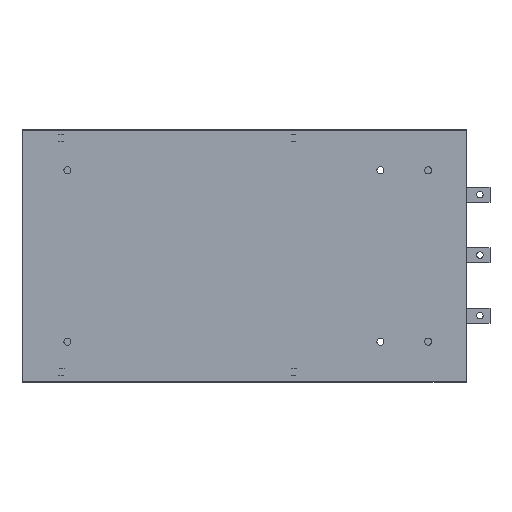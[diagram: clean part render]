
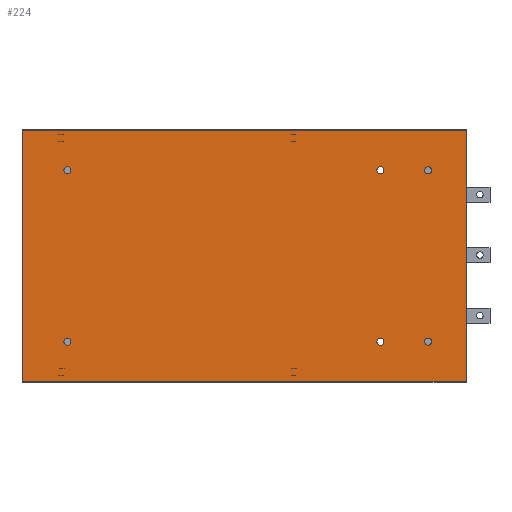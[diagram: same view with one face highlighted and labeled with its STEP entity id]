
A CAD part, front view. The second image highlights one B-rep face of the part: STEP entity #224.
In plain terms, the highlighted planar face has unit normal (0, -1, 0).
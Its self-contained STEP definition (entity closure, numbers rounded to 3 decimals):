
#224=ADVANCED_FACE('',(#3628,#3630,#3632,#3634,#3636,#3638,#3640),#3642,.T.);
#3628=FACE_BOUND('',#3629,.T.);
#3629=EDGE_LOOP('',(#8478,#8479,#8480,#8481));
#3630=FACE_BOUND('',#3631,.T.);
#3631=EDGE_LOOP('',(#8482));
#3632=FACE_BOUND('',#3633,.T.);
#3633=EDGE_LOOP('',(#8483));
#3634=FACE_BOUND('',#3635,.T.);
#3635=EDGE_LOOP('',(#8484));
#3636=FACE_BOUND('',#3637,.T.);
#3637=EDGE_LOOP('',(#8485));
#3638=FACE_BOUND('',#3639,.T.);
#3639=EDGE_LOOP('',(#8486));
#3640=FACE_BOUND('',#3641,.T.);
#3641=EDGE_LOOP('',(#8487));
#3642=PLANE('',#3643);
#3643=AXIS2_PLACEMENT_3D('',#3644,#3645,#3646);
#3644=CARTESIAN_POINT('',(764.726,-71.,-19.955));
#3645=DIRECTION('',(0.,-1.,0.));
#3646=DIRECTION('',(0.,0.,1.));
#8478=ORIENTED_EDGE('',*,*,#10662,.F.);
#8479=ORIENTED_EDGE('',*,*,#10667,.T.);
#8480=ORIENTED_EDGE('',*,*,#10664,.T.);
#8481=ORIENTED_EDGE('',*,*,#10668,.F.);
#8482=ORIENTED_EDGE('',*,*,#10669,.T.);
#8483=ORIENTED_EDGE('',*,*,#10670,.T.);
#8484=ORIENTED_EDGE('',*,*,#10671,.T.);
#8485=ORIENTED_EDGE('',*,*,#10672,.T.);
#8486=ORIENTED_EDGE('',*,*,#10673,.T.);
#8487=ORIENTED_EDGE('',*,*,#10674,.T.);
#10662=EDGE_CURVE('',#11777,#11779,#11780,.T.);
#10664=EDGE_CURVE('',#11782,#11783,#11784,.T.);
#10667=EDGE_CURVE('',#11777,#11782,#11787,.T.);
#10668=EDGE_CURVE('',#11779,#11783,#11788,.T.);
#10669=EDGE_CURVE('',#11789,#11789,#11790,.F.);
#10670=EDGE_CURVE('',#11791,#11791,#11792,.F.);
#10671=EDGE_CURVE('',#11793,#11793,#11794,.F.);
#10672=EDGE_CURVE('',#11795,#11795,#11796,.F.);
#10673=EDGE_CURVE('',#11797,#11797,#11798,.F.);
#10674=EDGE_CURVE('',#11799,#11799,#11800,.F.);
#11777=VERTEX_POINT('',#13706);
#11779=VERTEX_POINT('',#13711);
#11780=LINE('',#13712,#13713);
#11782=VERTEX_POINT('',#13719);
#11783=VERTEX_POINT('',#13720);
#11784=LINE('',#13721,#13722);
#11787=LINE('',#13732,#13733);
#11788=LINE('',#13735,#13736);
#11789=VERTEX_POINT('',#13738);
#11790=CIRCLE('',#13739,7.);
#11791=VERTEX_POINT('',#13743);
#11792=CIRCLE('',#13744,7.);
#11793=VERTEX_POINT('',#13748);
#11794=CIRCLE('',#13749,7.);
#11795=VERTEX_POINT('',#13753);
#11796=CIRCLE('',#13754,7.);
#11797=VERTEX_POINT('',#13758);
#11798=CIRCLE('',#13759,7.);
#11799=VERTEX_POINT('',#13763);
#11800=CIRCLE('',#13764,7.);
#13706=CARTESIAN_POINT('',(875.209,-71.,-19.955));
#13711=CARTESIAN_POINT('',(-6.2,-71.,-19.955));
#13712=CARTESIAN_POINT('',(875.209,-71.,-19.955));
#13713=VECTOR('',#13714,1.);
#13714=DIRECTION('',(-1.,0.,0.));
#13719=CARTESIAN_POINT('',(875.209,-71.,476.463));
#13720=CARTESIAN_POINT('',(-6.2,-71.,476.463));
#13721=CARTESIAN_POINT('',(875.209,-71.,476.463));
#13722=VECTOR('',#13723,1.);
#13723=DIRECTION('',(-1.,0.,0.));
#13732=CARTESIAN_POINT('',(875.209,-71.,-19.955));
#13733=VECTOR('',#13734,1.);
#13734=DIRECTION('',(0.,0.,1.));
#13735=CARTESIAN_POINT('',(-6.2,-71.,-19.955));
#13736=VECTOR('',#13737,1.);
#13737=DIRECTION('',(0.,0.,1.));
#13738=CARTESIAN_POINT('',(806.726,-71.,58.254));
#13739=AXIS2_PLACEMENT_3D('',#13740,#13741,#13742);
#13740=CARTESIAN_POINT('',(799.726,-71.,58.254));
#13741=DIRECTION('',(0.,-1.,0.));
#13742=DIRECTION('',(1.,0.,0.));
#13743=CARTESIAN_POINT('',(711.726,-71.,58.254));
#13744=AXIS2_PLACEMENT_3D('',#13745,#13746,#13747);
#13745=CARTESIAN_POINT('',(704.726,-71.,58.254));
#13746=DIRECTION('',(0.,-1.,0.));
#13747=DIRECTION('',(1.,0.,0.));
#13748=CARTESIAN_POINT('',(806.726,-71.,398.254));
#13749=AXIS2_PLACEMENT_3D('',#13750,#13751,#13752);
#13750=CARTESIAN_POINT('',(799.726,-71.,398.254));
#13751=DIRECTION('',(0.,-1.,0.));
#13752=DIRECTION('',(1.,0.,0.));
#13753=CARTESIAN_POINT('',(711.726,-71.,398.254));
#13754=AXIS2_PLACEMENT_3D('',#13755,#13756,#13757);
#13755=CARTESIAN_POINT('',(704.726,-71.,398.254));
#13756=DIRECTION('',(0.,-1.,0.));
#13757=DIRECTION('',(1.,0.,0.));
#13758=CARTESIAN_POINT('',(90.8,-71.,58.254));
#13759=AXIS2_PLACEMENT_3D('',#13760,#13761,#13762);
#13760=CARTESIAN_POINT('',(83.8,-71.,58.254));
#13761=DIRECTION('',(0.,-1.,0.));
#13762=DIRECTION('',(1.,0.,0.));
#13763=CARTESIAN_POINT('',(90.8,-71.,398.254));
#13764=AXIS2_PLACEMENT_3D('',#13765,#13766,#13767);
#13765=CARTESIAN_POINT('',(83.8,-71.,398.254));
#13766=DIRECTION('',(0.,-1.,0.));
#13767=DIRECTION('',(1.,0.,0.));
